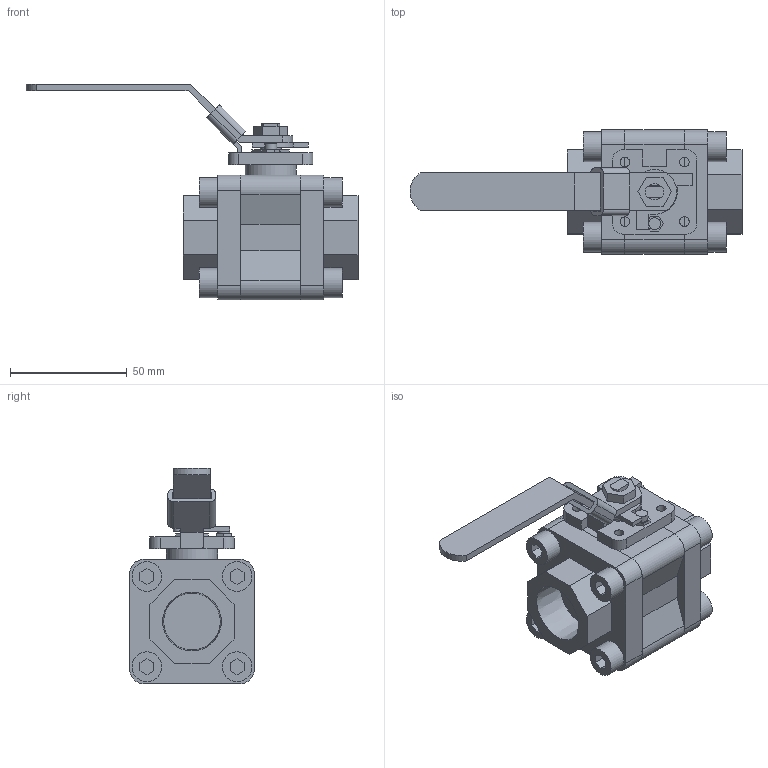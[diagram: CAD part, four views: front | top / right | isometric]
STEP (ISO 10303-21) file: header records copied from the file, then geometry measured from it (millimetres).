
FILE_DESCRIPTION((' '),'2;1');
FILE_NAME('N:\Technical Support\Private\Jomar Valve CAD\Ball Valves\CS and SS\2001N-4B\Threaded\0.75 T-CS[SS]-2001N-4B (601-614 [600-604])FusionCopy.stp.step','2017-09-14T11:19:56',(' '),(' '),' ','ACIS',' ');
FILE_SCHEMA(('CONFIG_CONTROL_DESIGN'));
Length unit declared in the file: inch
Products named in the file (19): N:\Technical Support\Private\Jomar Valve CAD\Ball Valves\CS and SS\2001N-4B\Threaded\0.75 T-CS[SS]-2001N-4B (601-614 [600-604])FusionCopy.stp.step; Body1; Body2; Body3; Body4; Body5; Body6; Body7; Body8; Body9; Body10; Body11; Body12; Body13; Body14; Body15; Body16; Body17; Body18
Assembly tree (18 placements, depth 2):
  N:\Technical Support\Private\Jomar Valve CAD\Ball Valves\CS and SS\2001N-4B\Threaded\0.75 T-CS[SS]-2001N-4B (601-614 [600-604])FusionCopy.stp.step
    Body1
    Body2
    Body3
    Body4
    Body5
    Body6
    Body7
    Body8
    Body9
    Body10
    Body11
    Body12
    Body13
    Body14
    Body15
    Body16
    Body17
    Body18
Bounding box: 141.96 x 53.34 x 92.33 mm (x, y, z)
Volume: 150286.4 mm3; surface area: 49968.1 mm2
Topology: 18 solids, 18 shells, 261 faces, 617 edges, 411 vertices
Faces by surface type: plane 151, bspline 66, cylinder 43, cone 1
Full cylindrical faces by diameter (mm): 4.064 x3, 4.953 x1, 5.08 x1, 6.985 x1, 8.89 x1, 12.281 x1, 12.7 x4, 19.05 x1, 21.844 x1, 24.257 x1
Entity records: 10269 total; most frequent: CARTESIAN_POINT 1678, ORIENTED_EDGE 1182, DIRECTION 1170, EDGE_CURVE 591, VECTOR 476, LINE 476, VERTEX_POINT 409, AXIS2_PLACEMENT_3D 347
